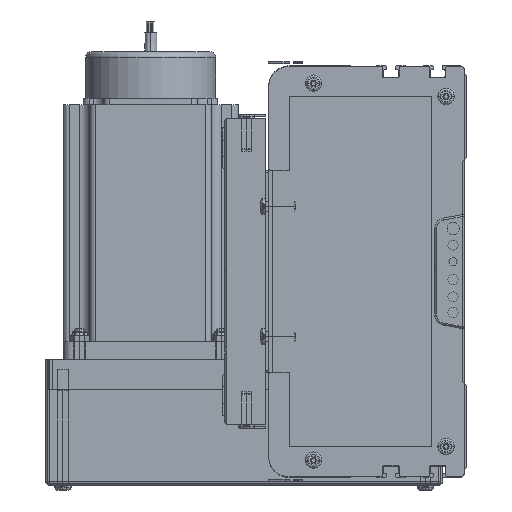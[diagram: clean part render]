
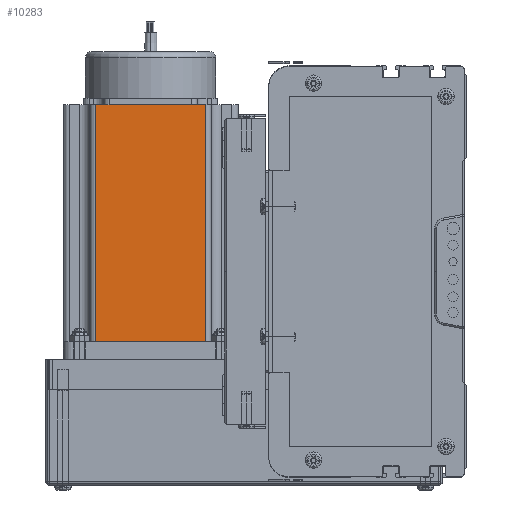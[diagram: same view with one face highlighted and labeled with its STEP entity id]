
A CAD part, left-side view. The second image highlights one B-rep face of the part: STEP entity #10283.
In plain terms, the highlighted planar face has unit normal (-1, 0, 0) as drawn and (0, -1, 0) by its records, which use the part's own axes.
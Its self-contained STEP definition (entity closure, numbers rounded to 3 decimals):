
#10180 = VERTEX_POINT ( 'NONE', #121985 ) ;
#10182 = ORIENTED_EDGE ( 'NONE', *, *, #10264, .T. ) ;
#10183 = EDGE_CURVE ( 'NONE', #10284, #10180, #121972, .T. ) ;
#10184 = EDGE_CURVE ( 'NONE', #10284, #10262, #121857, .T. ) ;
#10260 = ORIENTED_EDGE ( 'NONE', *, *, #10299, .T. ) ;
#10262 = VERTEX_POINT ( 'NONE', #122875 ) ;
#10263 = VERTEX_POINT ( 'NONE', #123268 ) ;
#10264 = EDGE_CURVE ( 'NONE', #10263, #10180, #123066, .T. ) ;
#10266 = EDGE_LOOP ( 'NONE', ( #10260, #10182, #10348, #10324 ) ) ;
#10283 = ADVANCED_FACE ( 'NONE', ( #122717 ), #123224, .F. ) ;
#10284 = VERTEX_POINT ( 'NONE', #122987 ) ;
#10299 = EDGE_CURVE ( 'NONE', #10262, #10263, #122682, .T. ) ;
#10324 = ORIENTED_EDGE ( 'NONE', *, *, #10184, .T. ) ;
#10348 = ORIENTED_EDGE ( 'NONE', *, *, #10183, .F. ) ;
#121857 = LINE ( 'NONE', #122515, #122513 ) ;
#121971 = CARTESIAN_POINT ( 'NONE',  ( 0., 0., 116.5 ) ) ;
#121972 = LINE ( 'NONE', #121971, #122529 ) ;
#121985 = CARTESIAN_POINT ( 'NONE',  ( 69.74, 0., 116.5 ) ) ;
#122511 = DIRECTION ( 'NONE',  ( 0., 0., -1. ) ) ;
#122513 = VECTOR ( 'NONE', #122511, 1000. ) ;
#122515 = CARTESIAN_POINT ( 'NONE',  ( 16.16, 0., 116.5 ) ) ;
#122528 = DIRECTION ( 'NONE',  ( 1., 0., 0. ) ) ;
#122529 = VECTOR ( 'NONE', #122528, 1000. ) ;
#122682 = LINE ( 'NONE', #123087, #123086 ) ;
#122700 = DIRECTION ( 'NONE',  ( 0., 0., 1. ) ) ;
#122717 = FACE_OUTER_BOUND ( 'NONE', #10266, .T. ) ;
#122721 = AXIS2_PLACEMENT_3D ( 'NONE', #122984, #122897, #122700 ) ;
#122855 = VECTOR ( 'NONE', #123270, 1000. ) ;
#122875 = CARTESIAN_POINT ( 'NONE',  ( 16.16, 0., 0. ) ) ;
#122897 = DIRECTION ( 'NONE',  ( 0., 1., 0. ) ) ;
#122984 = CARTESIAN_POINT ( 'NONE',  ( 0., 0., 116.5 ) ) ;
#122987 = CARTESIAN_POINT ( 'NONE',  ( 16.16, 0., 116.5 ) ) ;
#123066 = LINE ( 'NONE', #123271, #122855 ) ;
#123083 = DIRECTION ( 'NONE',  ( 1., 0., 0. ) ) ;
#123086 = VECTOR ( 'NONE', #123083, 1000. ) ;
#123087 = CARTESIAN_POINT ( 'NONE',  ( 0., 0., 0. ) ) ;
#123224 = PLANE ( 'NONE',  #122721 ) ;
#123268 = CARTESIAN_POINT ( 'NONE',  ( 69.74, 0., 0. ) ) ;
#123270 = DIRECTION ( 'NONE',  ( 0., 0., 1. ) ) ;
#123271 = CARTESIAN_POINT ( 'NONE',  ( 69.74, 0., 116.5 ) ) ;
